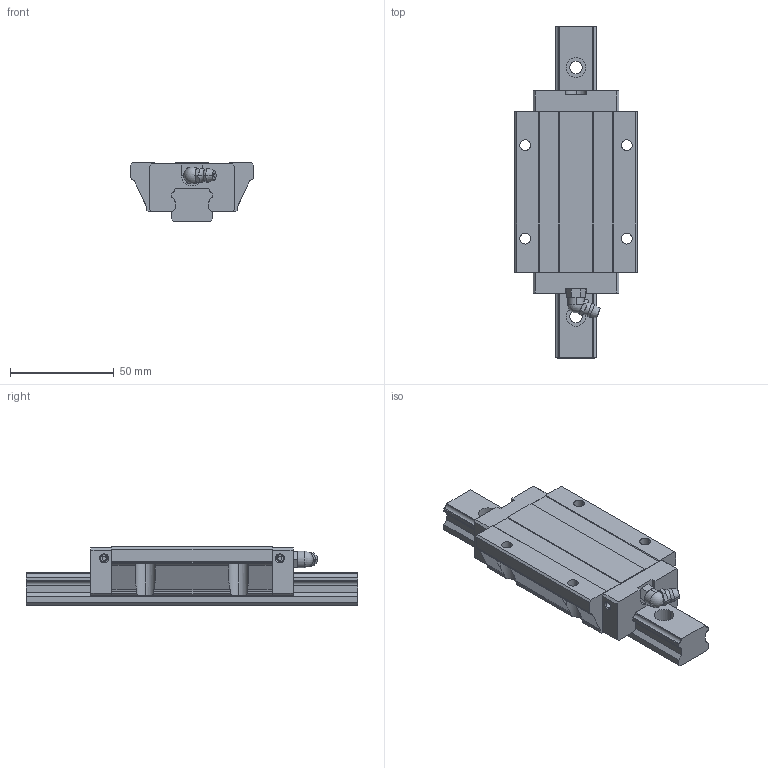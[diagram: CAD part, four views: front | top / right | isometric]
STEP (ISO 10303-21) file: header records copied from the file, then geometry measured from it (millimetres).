
FILE_DESCRIPTION((''),'1');
FILE_NAME(' ',' ',(''),(''),'ACIS Interop R16','Kubotek KeyCreator V6.5.2 (0407)',' ');
FILE_SCHEMA(('CONFIG_CONTROL_DESIGN'));
Length unit declared in the file: millimetre
Products named in the file (3): 1; 2; 3
Bounding box: 59 x 160 x 28 mm (x, y, z)
Volume: 135060.7 mm3; surface area: 33761.1 mm2
Topology: 3 solids, 3 shells, 249 faces, 675 edges, 447 vertices
Faces by surface type: plane 132, cylinder 92, cone 10, torus 10, sphere 3, bspline 2
Entity records: 8248 total; most frequent: CARTESIAN_POINT 1624, DIRECTION 1400, ORIENTED_EDGE 1346, EDGE_CURVE 673, AXIS2_PLACEMENT_3D 505, VERTEX_POINT 447, LINE 390, VECTOR 390
